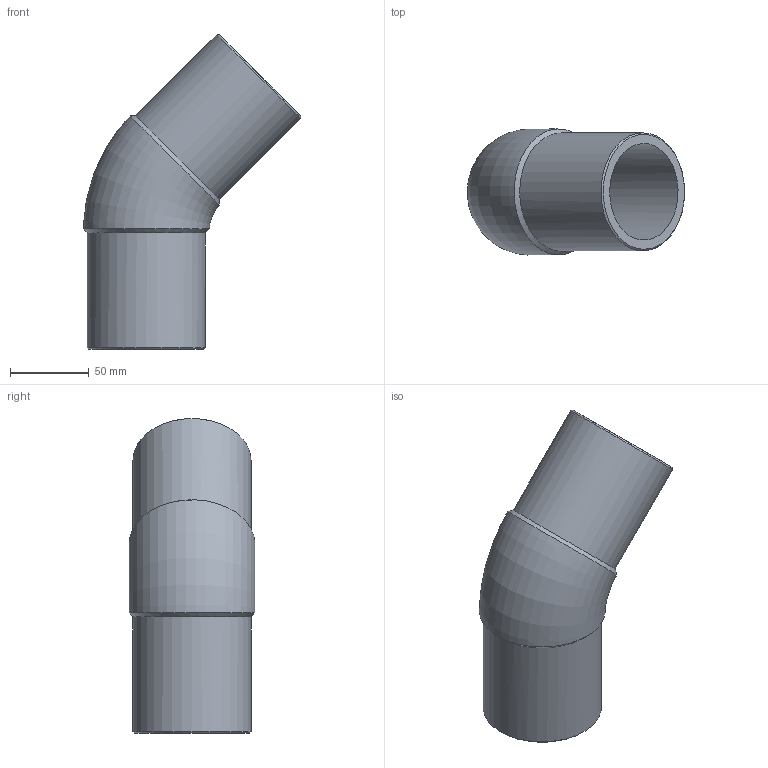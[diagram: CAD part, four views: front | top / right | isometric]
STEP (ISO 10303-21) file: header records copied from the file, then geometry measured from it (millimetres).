
FILE_DESCRIPTION(/* description */ ('Unknown'),/* implementation_level */ '2;1');
FILE_NAME(/* name */ 'G4P075C',/* time_stamp */ '2022-01-19T10:10:36+01:00',/* author */ ('Unknown'),/* organization */ ('Unknown'),/* preprocessor_version */ 'ST-DEVELOPER v18.1',/* originating_system */ 'Solid Edge',/* authorisation */ 'Unknown');
FILE_SCHEMA (('AUTOMOTIVE_DESIGN {1 0 10303 214 3 1 1}'));
Length unit declared in the file: millimetre
Products named in the file (1): G4P075C
Bounding box: 137.84 x 79.95 x 199.93 mm (x, y, z)
Volume: 326042.4 mm3; surface area: 90160 mm2
Topology: 1 solids, 1 shells, 12 faces, 30 edges, 20 vertices
Faces by surface type: cone 4, cylinder 4, plane 2, torus 2
Full cylindrical faces by diameter (mm): 61.4 x2, 75 x2
Entity records: 432 total; most frequent: CARTESIAN_POINT 172, DIRECTION 48, ORIENTED_EDGE 34, AXIS2_PLACEMENT_3D 24, EDGE_LOOP 23, FACE_BOUND 23, EDGE_CURVE 17, VERTEX_POINT 16
